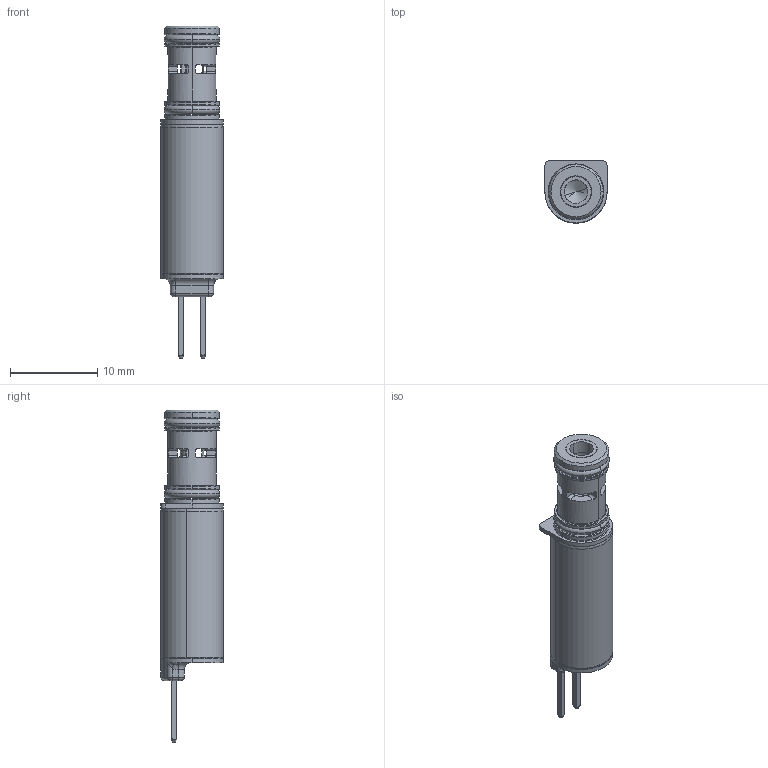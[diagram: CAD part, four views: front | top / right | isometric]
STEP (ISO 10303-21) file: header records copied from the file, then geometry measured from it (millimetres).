
FILE_DESCRIPTION (( 'STEP AP203' ), '1' );
FILE_NAME ('FCSV ASSEM Sanitized STEP.STEP', '2026-04-10T12:50:44', ( '' ), ( '' ), 'SwSTEP 2.0', 'SolidWorks 2025', '' );
FILE_SCHEMA (( 'CONFIG_CONTROL_DESIGN' ));
Length unit declared in the file: inch
Products named in the file (1): FCSV ASSEM Sanitized STEP
Bounding box: 7.16 x 7.16 x 38.15 mm (x, y, z)
Surface area: 1064.8 mm2 (no closed solid volume)
Topology: 0 solids, 11 shells, 165 faces, 509 edges, 347 vertices
Faces by surface type: cylinder 60, plane 52, torus 35, cone 12, bspline 6
Entity records: 6303 total; most frequent: CARTESIAN_POINT 1758, DIRECTION 960, ORIENTED_EDGE 864, EDGE_CURVE 505, AXIS2_PLACEMENT_3D 385, VERTEX_POINT 347, CIRCLE 225, LINE 190
